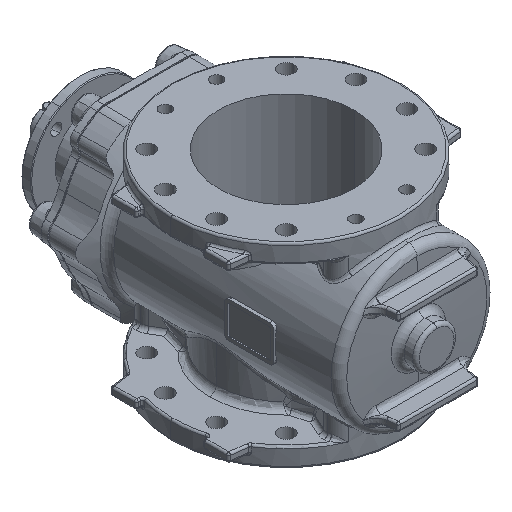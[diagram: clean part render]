
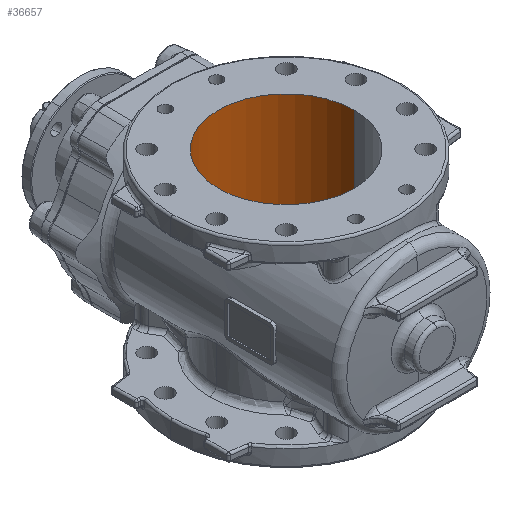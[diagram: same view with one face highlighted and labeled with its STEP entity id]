
A CAD part, isometric view. The second image highlights one B-rep face of the part: STEP entity #36657.
In plain terms, the highlighted cylindrical face has radius 101.6 mm (diameter 203.2 mm), a partial arc.
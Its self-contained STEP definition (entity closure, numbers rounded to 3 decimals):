
#154 = VECTOR ( 'NONE', #38344, 1000. ) ;
#1155 = EDGE_CURVE ( 'Defeatured_0_749+Defeatured_0_1+Defeatured_0_1+Defeatured_0_1', #2151, #30851, #24460, .T. ) ;
#1227 = CARTESIAN_POINT ( 'NONE',  ( 101.6, 0., -433.368 ) ) ;
#1419 = CARTESIAN_POINT ( 'NONE',  ( 0., 0., 146. ) ) ;
#1448 = VECTOR ( 'NONE', #13019, 1000. ) ;
#2151 = VERTEX_POINT ( 'NONE', #30421 ) ;
#6770 = AXIS2_PLACEMENT_3D ( 'NONE', #18851, #10138, #12775 ) ;
#7645 = EDGE_CURVE ( 'Defeatured_0_0+Defeatured_0_749+Defeatured_0_749+Defeatured_0_749', #27200, #13927, #33199, .T. ) ;
#8246 = EDGE_LOOP ( 'NONE', ( #27870, #18096, #23966, #24169 ) ) ;
#8348 = EDGE_CURVE ( 'NONE', #13927, #30851, #15649, .T. ) ;
#10138 = DIRECTION ( 'NONE',  ( 0., 0., 1. ) ) ;
#12585 = DIRECTION ( 'NONE',  ( -1., 0., 0. ) ) ;
#12775 = DIRECTION ( 'NONE',  ( 1., 0., 0. ) ) ;
#13019 = DIRECTION ( 'NONE',  ( 0., 0., 1. ) ) ;
#13927 = VERTEX_POINT ( 'NONE', #21320 ) ;
#15649 = LINE ( 'NONE', #28010, #1448 ) ;
#17086 = LINE ( 'NONE', #1227, #154 ) ;
#18096 = ORIENTED_EDGE ( 'NONE', *, *, #7645, .F. ) ;
#18851 = CARTESIAN_POINT ( 'NONE',  ( 0., 0., -433.368 ) ) ;
#21127 = CARTESIAN_POINT ( 'NONE',  ( -101.6, 0., 146. ) ) ;
#21320 = CARTESIAN_POINT ( 'NONE',  ( -101.6, 0., -146. ) ) ;
#22299 = DIRECTION ( 'NONE',  ( 0., 0., 1. ) ) ;
#22937 = DIRECTION ( 'NONE',  ( 0., 0., 1. ) ) ;
#23966 = ORIENTED_EDGE ( 'NONE', *, *, #33532, .T. ) ;
#24169 = ORIENTED_EDGE ( 'NONE', *, *, #1155, .T. ) ;
#24460 = CIRCLE ( 'NONE', #31605, 101.6 ) ;
#25293 = CARTESIAN_POINT ( 'NONE',  ( 101.6, 0., -146. ) ) ;
#25723 = FACE_OUTER_BOUND ( 'NONE', #8246, .T. ) ;
#27200 = VERTEX_POINT ( 'NONE', #25293 ) ;
#27870 = ORIENTED_EDGE ( 'NONE', *, *, #8348, .F. ) ;
#28010 = CARTESIAN_POINT ( 'NONE',  ( -101.6, 0., -433.368 ) ) ;
#28381 = CYLINDRICAL_SURFACE ( 'NONE', #6770, 101.6 ) ;
#30421 = CARTESIAN_POINT ( 'NONE',  ( 101.6, 0., 146. ) ) ;
#30851 = VERTEX_POINT ( 'NONE', #21127 ) ;
#31605 = AXIS2_PLACEMENT_3D ( 'NONE', #1419, #22937, #32470 ) ;
#31899 = AXIS2_PLACEMENT_3D ( 'NONE', #37502, #22299, #12585 ) ;
#32470 = DIRECTION ( 'NONE',  ( 1., 0., 0. ) ) ;
#33199 = CIRCLE ( 'NONE', #31899, 101.6 ) ;
#33532 = EDGE_CURVE ( 'NONE', #27200, #2151, #17086, .T. ) ;
#36657 = ADVANCED_FACE ( 'Defeatured_0_749', ( #25723 ), #28381, .F. ) ;
#37502 = CARTESIAN_POINT ( 'NONE',  ( 0., 0., -146. ) ) ;
#38344 = DIRECTION ( 'NONE',  ( 0., 0., 1. ) ) ;
